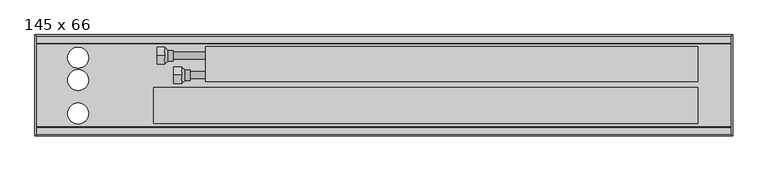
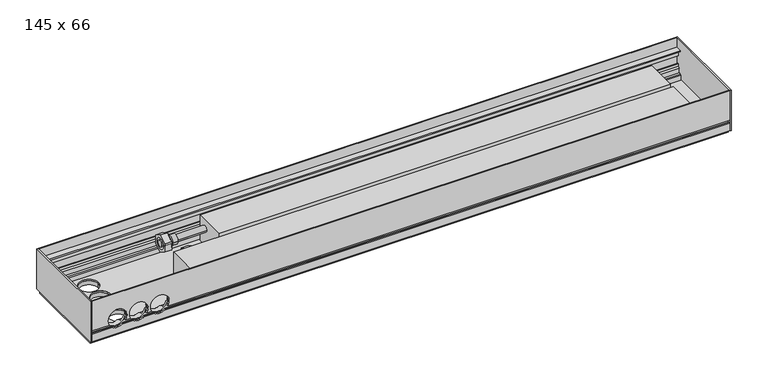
"""IFC4 building model written with IfcOpenShell, lengths in millimetres: proxy geometry, Mohlenhof_Внутрипольный конвектор_QSKM : 145 x 66."""

from ifc_helpers import new_model, si_unit, point, frame, frame_2d, origin, place, context, project, spatial, polyline, circle_curve, ellipse_curve, trimmed, segment, composite_curve, outline, extrude, source, transform, mapped, element, save
from ifc_brep_helpers import plane_surface, cylinder_surface, revolved_surface, advanced_brep


def proxy_145_x_66_d34efbbd(model_context):
    return source(origin(), model_context, "Body", "SolidModel", [
        advanced_brep(
        [(-290.0, -158.0, -47.5), (-290.0, -146.0, -47.5), (-290.0, -170.0, -47.5), (-277.5, -165.5, -47.5), (-277.5, -150.5, -47.5), (-277.5, -158.0, -47.5), (-285.0, -165.5, -47.5), (-285.0, -150.5, -47.5)],
        [
            (0, 1),
            (1, 2, circle_curve(frame((-290.0, -158.0, -47.5), z_axis=(-1.0, 0.0, 0.0), x_axis=(0.0, 1.0, 0.0)), 12.0)),
            (2, 0),
            (2, 1, circle_curve(frame((-290.0, -158.0, -47.5), z_axis=(-1.0, 0.0, 0.0), x_axis=(0.0, 1.0, 0.0)), 12.0)),
            (3, 4, circle_curve(frame((-277.5, -158.0, -47.5), z_axis=(1.0, 0.0, 0.0), x_axis=(0.0, 1.0, 0.0)), 7.5)),
            (4, 5),
            (5, 3),
            (4, 3, circle_curve(frame((-277.5, -158.0, -47.5), z_axis=(1.0, 0.0, 0.0), x_axis=(0.0, 1.0, 0.0)), 7.5)),
            (6, 7, circle_curve(frame((-285.0, -158.0, -47.5), z_axis=(1.0, 0.0, 0.0), x_axis=(0.0, 1.0, 0.0)), 7.5)),
            (7, 4),
            (3, 6),
            (7, 6, circle_curve(frame((-285.0, -158.0, -47.5), z_axis=(1.0, 0.0, 0.0), x_axis=(0.0, 1.0, 0.0)), 7.5)),
            (1, 7),
            (6, 2),
        ],
        [
            plane_surface(frame((-290.0, -158.0, -47.5), z_axis=(-1.0, 0.0, 0.0), x_axis=(0.0, 1.0, 0.0))),
            plane_surface(frame((-277.5, -158.0, -47.5), z_axis=(1.0, 0.0, 0.0), x_axis=(0.0, 1.0, 0.0))),
            cylinder_surface(frame((-290.0, -158.0, -47.5), z_axis=(-1.0, 0.0, 0.0), x_axis=(0.0, 1.0, 0.0)), 7.5),
            revolved_surface(polyline([(-285.0, -150.5, -47.5), (-290.0, -146.0, -47.5)]), (-290.0, -158.0, -47.5), (-1.0, 0.0, 0.0)),
        ],
        [
            (0, [[1, 2, 3]]),
            (0, [[-3, 4, -1]]),
            (1, [[5, 6, 7]]),
            (1, [[8, -7, -6]]),
            (2, [[9, 10, -5, 11]]),
            (2, [[12, -11, -8, -10]]),
            (3, [[-2, 13, -9, 14]]),
            (3, [[-4, -14, -12, -13]]),
        ],
    ),
        extrude(outline(polyline([(-158.0, -33.6435935), (-146.0, -40.5717968), (-146.0, -54.4282032), (-158.0, -61.3564065), (-170.0, -54.4282032), (-170.0, -40.5717968), (-158.0, -33.6435935)]), holes=[composite_curve([segment(trimmed(circle_curve(frame_2d((-158.0, -47.5)), 8.5), [point((-149.5, -47.5))], [point((-166.5, -47.5))], True, "CARTESIAN"), True, "CONTINUOUS"), segment(trimmed(circle_curve(frame_2d((-158.0, -47.5)), 8.5), [point((-166.5, -47.5))], [point((-149.5, -47.5))], True, "CARTESIAN"), True, "CONTINUOUS")], self_intersect=False)]), frame((-301.0, 0.0, 0.0), z_axis=(1.0, 0.0, 0.0), x_axis=(0.0, 1.0, 0.0)), (0.0, 0.0, 1.0), 11.0),
        advanced_brep(
        [(-314.0, -130.0, -34.5), (-314.0, -118.0, -34.5), (-314.0, -142.0, -34.5), (-301.5, -137.5, -34.5), (-301.5, -122.5, -34.5), (-301.5, -130.0, -34.5), (-309.0, -137.5, -34.5), (-309.0, -122.5, -34.5)],
        [
            (0, 1),
            (1, 2, circle_curve(frame((-314.0, -130.0, -34.5), z_axis=(-1.0, 0.0, 0.0), x_axis=(0.0, 1.0, 0.0)), 12.0)),
            (2, 0),
            (2, 1, circle_curve(frame((-314.0, -130.0, -34.5), z_axis=(-1.0, 0.0, 0.0), x_axis=(0.0, 1.0, 0.0)), 12.0)),
            (3, 4, circle_curve(frame((-301.5, -130.0, -34.5), z_axis=(1.0, 0.0, 0.0), x_axis=(0.0, 1.0, 0.0)), 7.5)),
            (4, 5),
            (5, 3),
            (4, 3, circle_curve(frame((-301.5, -130.0, -34.5), z_axis=(1.0, 0.0, 0.0), x_axis=(0.0, 1.0, 0.0)), 7.5)),
            (6, 7, circle_curve(frame((-309.0, -130.0, -34.5), z_axis=(1.0, 0.0, 0.0), x_axis=(0.0, 1.0, 0.0)), 7.5)),
            (7, 4),
            (3, 6),
            (7, 6, circle_curve(frame((-309.0, -130.0, -34.5), z_axis=(1.0, 0.0, 0.0), x_axis=(0.0, 1.0, 0.0)), 7.5)),
            (1, 7),
            (6, 2),
        ],
        [
            plane_surface(frame((-314.0, -130.0, -34.5), z_axis=(-1.0, 0.0, 0.0), x_axis=(0.0, 1.0, 0.0))),
            plane_surface(frame((-301.5, -130.0, -34.5), z_axis=(1.0, 0.0, 0.0), x_axis=(0.0, 1.0, 0.0))),
            cylinder_surface(frame((-314.0, -130.0, -34.5), z_axis=(-1.0, 0.0, 0.0), x_axis=(0.0, 1.0, 0.0)), 7.5),
            revolved_surface(polyline([(-309.0, -122.5, -34.5), (-314.0, -118.0, -34.5)]), (-314.0, -130.0, -34.5), (-1.0, 0.0, 0.0)),
        ],
        [
            (0, [[1, 2, 3]]),
            (0, [[-3, 4, -1]]),
            (1, [[5, 6, 7]]),
            (1, [[8, -7, -6]]),
            (2, [[9, 10, -5, 11]]),
            (2, [[12, -11, -8, -10]]),
            (3, [[-2, 13, -9, 14]]),
            (3, [[-4, -14, -12, -13]]),
        ],
    ),
        extrude(outline(polyline([(-130.0, -20.6435935), (-118.0, -27.5717968), (-118.0, -41.4282032), (-130.0, -48.3564065), (-142.0, -41.4282032), (-142.0, -27.5717968), (-130.0, -20.6435935)]), holes=[composite_curve([segment(trimmed(circle_curve(frame_2d((-130.0, -34.5)), 8.5), [point((-121.5, -34.5))], [point((-138.5, -34.5))], True, "CARTESIAN"), True, "CONTINUOUS"), segment(trimmed(circle_curve(frame_2d((-130.0, -34.5)), 8.5), [point((-138.5, -34.5))], [point((-121.5, -34.5))], True, "CARTESIAN"), True, "CONTINUOUS")], self_intersect=False)]), frame((-325.0, 0.0, 0.0), z_axis=(1.0, 0.0, 0.0), x_axis=(0.0, 1.0, 0.0)), (0.0, 0.0, 1.0), 11.0),
        extrude(outline(composite_curve([segment(trimmed(circle_curve(frame_2d((-475.0, -223.5)), 4.5), [point((-479.5, -223.5))], [point((-470.5, -223.5))], False, "CARTESIAN"), True, "CONTINUOUS"), segment(trimmed(circle_curve(frame_2d((-475.0, -223.5)), 4.5), [point((-470.5, -223.5))], [point((-479.5, -223.5))], False, "CARTESIAN"), True, "CONTINUOUS")], self_intersect=False)), frame((0.0, 0.0, -79.0), z_axis=(0.0, 0.0, 1.0), x_axis=(1.0, 0.0, 0.0)), (0.0, 0.0, 1.0), 7.0),
        extrude(outline(composite_curve([segment(trimmed(circle_curve(frame_2d((-475.0, -223.5)), 4.0), [point((-479.0, -223.5))], [point((-471.0, -223.5))], False, "CARTESIAN"), True, "CONTINUOUS"), segment(trimmed(circle_curve(frame_2d((-475.0, -223.5)), 4.0), [point((-471.0, -223.5))], [point((-479.0, -223.5))], False, "CARTESIAN"), True, "CONTINUOUS")], self_intersect=False)), frame((0.0, 0.0, -72.0), z_axis=(0.0, 0.0, 1.0), x_axis=(1.0, 0.0, 0.0)), (0.0, 0.0, 1.0), 1.5),
        extrude(outline(composite_curve([segment(trimmed(circle_curve(frame_2d((-475.0, -121.5)), 4.5), [point((-479.5, -121.5))], [point((-470.5, -121.5))], False, "CARTESIAN"), True, "CONTINUOUS"), segment(trimmed(circle_curve(frame_2d((-475.0, -121.5)), 4.5), [point((-470.5, -121.5))], [point((-479.5, -121.5))], False, "CARTESIAN"), True, "CONTINUOUS")], self_intersect=False)), frame((0.0, 0.0, -79.0), z_axis=(0.0, 0.0, 1.0), x_axis=(1.0, 0.0, 0.0)), (0.0, 0.0, 1.0), 7.0),
        extrude(outline(composite_curve([segment(trimmed(circle_curve(frame_2d((-475.0, -121.5)), 4.0), [point((-479.0, -121.5))], [point((-471.0, -121.5))], False, "CARTESIAN"), True, "CONTINUOUS"), segment(trimmed(circle_curve(frame_2d((-475.0, -121.5)), 4.0), [point((-471.0, -121.5))], [point((-479.0, -121.5))], False, "CARTESIAN"), True, "CONTINUOUS")], self_intersect=False)), frame((0.0, 0.0, -72.0), z_axis=(0.0, 0.0, 1.0), x_axis=(1.0, 0.0, 0.0)), (0.0, 0.0, 1.0), 1.5),
        extrude(outline(composite_curve([segment(trimmed(circle_curve(frame_2d((475.0, -223.5)), 4.5), [point((470.5, -223.5))], [point((479.5, -223.5))], False, "CARTESIAN"), True, "CONTINUOUS"), segment(trimmed(circle_curve(frame_2d((475.0, -223.5)), 4.5), [point((479.5, -223.5))], [point((470.5, -223.5))], False, "CARTESIAN"), True, "CONTINUOUS")], self_intersect=False)), frame((0.0, 0.0, -79.0), z_axis=(0.0, 0.0, 1.0), x_axis=(1.0, 0.0, 0.0)), (0.0, 0.0, 1.0), 7.0),
        extrude(outline(composite_curve([segment(trimmed(circle_curve(frame_2d((475.0, -223.5)), 4.0), [point((471.0, -223.5))], [point((479.0, -223.5))], False, "CARTESIAN"), True, "CONTINUOUS"), segment(trimmed(circle_curve(frame_2d((475.0, -223.5)), 4.0), [point((479.0, -223.5))], [point((471.0, -223.5))], False, "CARTESIAN"), True, "CONTINUOUS")], self_intersect=False)), frame((0.0, 0.0, -72.0), z_axis=(0.0, 0.0, 1.0), x_axis=(1.0, 0.0, 0.0)), (0.0, 0.0, 1.0), 1.5),
        extrude(outline(composite_curve([segment(trimmed(circle_curve(frame_2d((475.0, -121.5)), 4.5), [point((470.5, -121.5))], [point((479.5, -121.5))], False, "CARTESIAN"), True, "CONTINUOUS"), segment(trimmed(circle_curve(frame_2d((475.0, -121.5)), 4.5), [point((479.5, -121.5))], [point((470.5, -121.5))], False, "CARTESIAN"), True, "CONTINUOUS")], self_intersect=False)), frame((0.0, 0.0, -79.0), z_axis=(0.0, 0.0, 1.0), x_axis=(1.0, 0.0, 0.0)), (0.0, 0.0, 1.0), 7.0),
        extrude(outline(composite_curve([segment(trimmed(circle_curve(frame_2d((475.0, -121.5)), 4.0), [point((471.0, -121.5))], [point((479.0, -121.5))], False, "CARTESIAN"), True, "CONTINUOUS"), segment(trimmed(circle_curve(frame_2d((475.0, -121.5)), 4.0), [point((479.0, -121.5))], [point((471.0, -121.5))], False, "CARTESIAN"), True, "CONTINUOUS")], self_intersect=False)), frame((0.0, 0.0, -72.0), z_axis=(0.0, 0.0, 1.0), x_axis=(1.0, 0.0, 0.0)), (0.0, 0.0, 1.0), 1.5),
        extrude(outline(polyline([(450.0, -175.87), (450.0, -227.18), (-330.0, -227.18), (-330.0, -175.87), (450.0, -175.87)])), frame((0.0, 0.0, -62.5), z_axis=(0.0, 0.0, 1.0), x_axis=(1.0, 0.0, 0.0)), (0.0, 0.0, 1.0), 43.62),
        extrude(outline(composite_curve([segment(trimmed(circle_curve(frame_2d((-158.0, -47.5)), 5.0), [point((-163.0, -47.5))], [point((-153.0, -47.5))], False, "CARTESIAN"), True, "CONTINUOUS"), segment(trimmed(circle_curve(frame_2d((-158.0, -47.5)), 5.0), [point((-153.0, -47.5))], [point((-163.0, -47.5))], False, "CARTESIAN"), True, "CONTINUOUS")], self_intersect=False)), frame((-301.0, 0.0, 0.0), z_axis=(1.0, 0.0, 0.0), x_axis=(0.0, 1.0, 0.0)), (0.0, 0.0, 1.0), 46.0),
        extrude(outline(composite_curve([segment(trimmed(circle_curve(frame_2d((-130.0, -34.5)), 5.0), [point((-135.0, -34.5))], [point((-125.0, -34.5))], False, "CARTESIAN"), True, "CONTINUOUS"), segment(trimmed(circle_curve(frame_2d((-130.0, -34.5)), 5.0), [point((-125.0, -34.5))], [point((-135.0, -34.5))], False, "CARTESIAN"), True, "CONTINUOUS")], self_intersect=False)), frame((-325.0, 0.0, 0.0), z_axis=(1.0, 0.0, 0.0), x_axis=(0.0, 1.0, 0.0)), (0.0, 0.0, 1.0), 70.0),
        advanced_brep(
        [(498.0, -245.0, -48.5473602), (498.0, -243.5, -49.2468216), (498.0, -242.5, -49.2468216), (498.0, -242.5, -46.0008038), (498.0, -240.0, -46.0008038), (498.0, -240.0, -56.5008038), (498.0, -242.5, -56.5008038), (498.0, -242.5, -53.2468216), (498.0, -243.5, -53.2468216), (498.0, -245.0, -53.9462831), (498.0, -245.0, -66.5), (498.0, -241.0, -66.5), (498.0, -241.0, -65.2), (498.0, -243.0, -65.2), (498.0, -243.0, -62.5), (498.0, -232.0, -62.5), (498.0, -232.0, -54.9172677), (498.0, -233.4172677, -53.5), (498.0, -237.0, -53.5), (498.0, -237.0, -45.91), (498.0, -239.0, -43.91), (498.0, -239.0, -39.5), (498.0, -240.0, -39.5), (498.0, -240.0, -43.5), (498.0, -242.4956439, -43.5), (498.0, -242.4956439, -23.0), (498.0, -240.0, -23.0), (498.0, -240.0, -27.0), (498.0, -239.0, -27.0), (498.0, -239.0, -17.0), (498.0, -233.3956439, -17.0), (498.0, -233.3956439, -15.0), (498.0, -243.4, -15.0), (498.0, -243.4, 0.0), (498.0, -245.0, 0.0), (-498.0, -245.0, -48.5473602), (-498.0, -245.0, 0.0), (-498.0, -243.4, 0.0), (-498.0, -243.4, -15.0), (-498.0, -233.3956439, -15.0), (-498.0, -233.3956439, -17.0), (-498.0, -239.0, -17.0), (-498.0, -239.0, -27.0), (-498.0, -240.0, -27.0), (-498.0, -240.0, -23.0), (-498.0, -242.4956439, -23.0), (-498.0, -242.4956439, -43.5), (-498.0, -240.0, -43.5), (-498.0, -240.0, -39.5), (-498.0, -239.0, -39.5), (-498.0, -239.0, -43.91), (-498.0, -237.0, -45.91), (-498.0, -237.0, -53.5), (-498.0, -233.4172677, -53.5), (-498.0, -232.0, -54.9172677), (-498.0, -232.0, -62.5), (-498.0, -243.0, -62.5), (-498.0, -243.0, -65.2), (-498.0, -241.0, -65.2), (-498.0, -241.0, -66.5), (-498.0, -245.0, -66.5), (-498.0, -245.0, -53.9462831), (-498.0, -243.5, -53.2468216), (-498.0, -242.5, -53.2468216), (-498.0, -242.5, -56.5008038), (-498.0, -240.0, -56.5008038), (-498.0, -240.0, -46.0008038), (-498.0, -242.5, -46.0008038), (-498.0, -242.5, -49.2468216), (-498.0, -243.5, -49.2468216), (-378.7585985, -245.0, -48.5473602), (-379.155283, -243.5, -49.2468216), (-470.844717, -243.5, -49.2468216), (-471.2414015, -245.0, -48.5473602), (-438.2414015, -245.0, -48.5473602), (-444.7585985, -245.0, -48.5473602), (-445.155283, -243.5, -49.2468216), (-437.844717, -243.5, -49.2468216), (-405.2414015, -245.0, -48.5473602), (-411.7585985, -245.0, -48.5473602), (-412.155283, -243.5, -49.2468216), (-404.844717, -243.5, -49.2468216), (-379.155283, -242.5, -49.2468216), (-470.844717, -242.5, -49.2468216), (-445.155283, -242.5, -49.2468216), (-437.844717, -242.5, -49.2468216), (-412.155283, -242.5, -49.2468216), (-404.844717, -242.5, -49.2468216), (-377.6911648, -242.5, -46.0008038), (-472.3088352, -242.5, -46.0008038), (-443.6911648, -242.5, -46.0008038), (-439.3088352, -242.5, -46.0008038), (-410.6911648, -242.5, -46.0008038), (-406.3088352, -242.5, -46.0008038), (-377.6911648, -240.0, -46.0008038), (-472.3088352, -240.0, -46.0008038), (-443.6911648, -240.0, -46.0008038), (-439.3088352, -240.0, -46.0008038), (-410.6911648, -240.0, -46.0008038), (-406.3088352, -240.0, -46.0008038), (-467.328032, -242.5, -53.2468216), (-448.671968, -242.5, -53.2468216), (-434.328032, -242.5, -53.2468216), (-415.671968, -242.5, -53.2468216), (-401.328032, -242.5, -53.2468216), (-382.671968, -242.5, -53.2468216), (-382.671968, -243.5, -53.2468216), (-467.328032, -243.5, -53.2468216), (-448.671968, -243.5, -53.2468216), (-434.328032, -243.5, -53.2468216), (-415.671968, -243.5, -53.2468216), (-401.328032, -243.5, -53.2468216), (-383.6280208, -245.0, -53.9462831), (-466.3719792, -245.0, -53.9462831), (-449.6280208, -245.0, -53.9462831), (-433.3719792, -245.0, -53.9462831), (-416.6280208, -245.0, -53.9462831), (-400.3719792, -245.0, -53.9462831), (-464.7064841, -232.0, -54.9172677), (-451.2935159, -232.0, -54.9172677), (-431.7064841, -232.0, -54.9172677), (-418.2935159, -232.0, -54.9172677), (-398.7064841, -232.0, -54.9172677), (-385.2935159, -232.0, -54.9172677), (-383.0, -233.4172677, -53.5), (-467.0, -233.4172677, -53.5), (-449.0, -233.4172677, -53.5), (-434.0, -233.4172677, -53.5), (-416.0, -233.4172677, -53.5), (-401.0, -233.4172677, -53.5), (-383.0, -237.0, -53.5), (-467.0, -237.0, -53.5), (-449.0, -237.0, -53.5), (-434.0, -237.0, -53.5), (-416.0, -237.0, -53.5), (-401.0, -237.0, -53.5), (-377.6629187, -237.0, -45.91), (-472.3370813, -237.0, -45.91), (-443.6629187, -237.0, -45.91), (-439.3370813, -237.0, -45.91), (-410.6629187, -237.0, -45.91), (-406.3370813, -237.0, -45.91), (-377.1948691, -239.0, -43.91), (-472.8051309, -239.0, -43.91), (-443.1948691, -239.0, -43.91), (-439.8051309, -239.0, -43.91), (-410.1948691, -239.0, -43.91), (-406.8051309, -239.0, -43.91), (-377.0, -239.0, -41.5), (-377.1339313, -239.0, -39.5), (-472.8660687, -239.0, -39.5), (-473.0, -239.0, -41.5), (-443.0, -239.0, -41.5), (-443.1339313, -239.0, -39.5), (-439.8660687, -239.0, -39.5), (-440.0, -239.0, -41.5), (-410.0, -239.0, -41.5), (-410.1339313, -239.0, -39.5), (-406.8660687, -239.0, -39.5), (-407.0, -239.0, -41.5), (-377.1339313, -240.0, -39.5), (-472.8660687, -240.0, -39.5), (-443.1339313, -240.0, -39.5), (-439.8660687, -240.0, -39.5), (-410.1339313, -240.0, -39.5), (-406.8660687, -240.0, -39.5), (-377.0, -240.0, -41.5), (-377.1339313, -240.0, -43.5), (-472.8660687, -240.0, -43.5), (-473.0, -240.0, -41.5), (-443.0, -240.0, -41.5), (-443.1339313, -240.0, -43.5), (-439.8660687, -240.0, -43.5), (-440.0, -240.0, -41.5), (-410.0, -240.0, -41.5), (-410.1339313, -240.0, -43.5), (-406.8660687, -240.0, -43.5), (-407.0, -240.0, -41.5), (-377.1339313, -242.4956439, -43.5), (-472.8660687, -242.4956439, -43.5), (-443.1339313, -242.4956439, -43.5), (-439.8660687, -242.4956439, -43.5), (-410.1339313, -242.4956439, -43.5), (-406.8660687, -242.4956439, -43.5), (-377.0, -242.4956439, -41.5), (-407.0, -242.4956439, -41.5), (-410.0, -242.4956439, -41.5), (-440.0, -242.4956439, -41.5), (-443.0, -242.4956439, -41.5), (-473.0, -242.4956439, -41.5), (-461.8405729, -240.0, -27.0), (-454.1594271, -240.0, -27.0), (-428.8405729, -240.0, -27.0), (-421.1594271, -240.0, -27.0), (-395.8405729, -240.0, -27.0), (-388.1594271, -240.0, -27.0), (-388.1594271, -239.0, -27.0), (-461.8405729, -239.0, -27.0), (-454.1594271, -239.0, -27.0), (-428.8405729, -239.0, -27.0), (-421.1594271, -239.0, -27.0), (-395.8405729, -239.0, -27.0), (-473.0, -245.0, -41.5), (-443.0, -245.0, -41.5), (-440.0, -245.0, -41.5), (-410.0, -245.0, -41.5), (-407.0, -245.0, -41.5), (-377.0, -245.0, -41.5)],
        [
            (0, 1),
            (1, 2),
            (2, 3),
            (3, 4),
            (4, 5),
            (5, 6),
            (6, 7),
            (7, 8),
            (8, 9),
            (9, 10),
            (10, 11),
            (11, 12),
            (12, 13),
            (13, 14),
            (14, 15),
            (15, 16),
            (16, 17),
            (17, 18),
            (18, 19),
            (19, 20),
            (20, 21),
            (21, 22),
            (22, 23),
            (23, 24),
            (24, 25),
            (25, 26),
            (26, 27),
            (27, 28),
            (28, 29),
            (29, 30),
            (30, 31),
            (31, 32),
            (32, 33),
            (33, 34),
            (34, 0),
            (35, 36),
            (36, 37),
            (37, 38),
            (38, 39),
            (39, 40),
            (40, 41),
            (41, 42),
            (42, 43),
            (43, 44),
            (44, 45),
            (45, 46),
            (46, 47),
            (47, 48),
            (48, 49),
            (49, 50),
            (50, 51),
            (51, 52),
            (52, 53),
            (53, 54),
            (54, 55),
            (55, 56),
            (56, 57),
            (57, 58),
            (58, 59),
            (59, 60),
            (60, 61),
            (61, 62),
            (62, 63),
            (63, 64),
            (64, 65),
            (65, 66),
            (66, 67),
            (67, 68),
            (68, 69),
            (69, 35),
            (0, 70),
            (70, 71, ellipse_curve(frame((-392.0, -260.1131126, -41.5), z_axis=(0.0, 0.42261826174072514, 0.9063077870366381), x_axis=(0.0, -0.9063077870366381, 0.42261826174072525)), 35.4930237, 15.0)),
            (71, 1),
            (69, 72),
            (72, 73, ellipse_curve(frame((-458.0, -260.1131126, -41.5), z_axis=(0.0, 0.42261826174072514, 0.9063077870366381), x_axis=(0.0, -0.9063077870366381, 0.42261826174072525)), 35.4930237, 15.0)),
            (73, 35),
            (74, 75),
            (75, 76, ellipse_curve(frame((-458.0, -260.1131126, -41.5), z_axis=(0.0, 0.42261826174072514, 0.9063077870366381), x_axis=(0.0, -0.9063077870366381, 0.42261826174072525)), 35.4930237, 15.0)),
            (76, 77),
            (77, 74, ellipse_curve(frame((-425.0, -260.1131126, -41.5), z_axis=(0.0, 0.42261826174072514, 0.9063077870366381), x_axis=(0.0, -0.9063077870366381, 0.42261826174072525)), 35.4930237, 15.0)),
            (78, 79),
            (79, 80, ellipse_curve(frame((-425.0, -260.1131126, -41.5), z_axis=(0.0, 0.42261826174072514, 0.9063077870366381), x_axis=(0.0, -0.9063077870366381, 0.42261826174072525)), 35.4930237, 15.0)),
            (80, 81),
            (81, 78, ellipse_curve(frame((-392.0, -260.1131126, -41.5), z_axis=(0.0, 0.42261826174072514, 0.9063077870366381), x_axis=(0.0, -0.9063077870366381, 0.42261826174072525)), 35.4930237, 15.0)),
            (71, 82),
            (82, 2),
            (68, 83),
            (83, 72),
            (76, 84),
            (84, 85),
            (85, 77),
            (80, 86),
            (86, 87),
            (87, 81),
            (82, 88, circle_curve(frame((-392.0, -242.5, -41.5), z_axis=(0.0, -1.0, 0.0), x_axis=(1.0, 0.0, 0.0)), 15.0)),
            (88, 3),
            (67, 89),
            (89, 83, circle_curve(frame((-458.0, -242.5, -41.5), z_axis=(0.0, -1.0, 0.0), x_axis=(1.0, 0.0, 0.0)), 15.0)),
            (84, 90, circle_curve(frame((-458.0, -242.5, -41.5), z_axis=(0.0, -1.0, 0.0), x_axis=(1.0, 0.0, 0.0)), 15.0)),
            (90, 91),
            (91, 85, circle_curve(frame((-425.0, -242.5, -41.5), z_axis=(0.0, -1.0, 0.0), x_axis=(1.0, 0.0, 0.0)), 15.0)),
            (86, 92, circle_curve(frame((-425.0, -242.5, -41.5), z_axis=(0.0, -1.0, 0.0), x_axis=(1.0, 0.0, 0.0)), 15.0)),
            (92, 93),
            (93, 87, circle_curve(frame((-392.0, -242.5, -41.5), z_axis=(0.0, -1.0, 0.0), x_axis=(1.0, 0.0, 0.0)), 15.0)),
            (88, 94),
            (94, 4),
            (66, 95),
            (95, 89),
            (90, 96),
            (96, 97),
            (97, 91),
            (92, 98),
            (98, 99),
            (99, 93),
            (94, 99, circle_curve(frame((-392.0, -240.0, -41.5), z_axis=(0.0, 1.0, 0.0), x_axis=(1.0, 0.0, 0.0)), 15.0)),
            (98, 97, circle_curve(frame((-425.0, -240.0, -41.5), z_axis=(0.0, 1.0, 0.0), x_axis=(1.0, 0.0, 0.0)), 15.0)),
            (96, 95, circle_curve(frame((-458.0, -240.0, -41.5), z_axis=(0.0, 1.0, 0.0), x_axis=(1.0, 0.0, 0.0)), 15.0)),
            (65, 5),
            (64, 6),
            (63, 100),
            (100, 101, circle_curve(frame((-458.0, -242.5, -41.5), z_axis=(0.0, -1.0, 0.0), x_axis=(1.0, 0.0, 0.0)), 15.0)),
            (101, 102),
            (102, 103, circle_curve(frame((-425.0, -242.5, -41.5), z_axis=(0.0, -1.0, 0.0), x_axis=(1.0, 0.0, 0.0)), 15.0)),
            (103, 104),
            (104, 105, circle_curve(frame((-392.0, -242.5, -41.5), z_axis=(0.0, -1.0, 0.0), x_axis=(1.0, 0.0, 0.0)), 15.0)),
            (105, 7),
            (105, 106),
            (106, 8),
            (62, 107),
            (107, 100),
            (101, 108),
            (108, 109),
            (109, 102),
            (103, 110),
            (110, 111),
            (111, 104),
            (106, 112, ellipse_curve(frame((-392.0, -218.3088597, -41.5), z_axis=(0.0, 0.42261826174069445, -0.9063077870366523), x_axis=(0.0, -0.9063077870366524, -0.42261826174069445)), 35.4930237, 15.0)),
            (112, 9),
            (61, 113),
            (113, 107, ellipse_curve(frame((-458.0, -218.3088597, -41.5), z_axis=(0.0, 0.42261826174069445, -0.9063077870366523), x_axis=(0.0, -0.9063077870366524, -0.42261826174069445)), 35.4930237, 15.0)),
            (108, 114, ellipse_curve(frame((-458.0, -218.3088597, -41.5), z_axis=(0.0, 0.42261826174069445, -0.9063077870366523), x_axis=(0.0, -0.9063077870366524, -0.42261826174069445)), 35.4930237, 15.0)),
            (114, 115),
            (115, 109, ellipse_curve(frame((-425.0, -218.3088597, -41.5), z_axis=(0.0, 0.42261826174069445, -0.9063077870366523), x_axis=(0.0, -0.9063077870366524, -0.42261826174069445)), 35.4930237, 15.0)),
            (110, 116, ellipse_curve(frame((-425.0, -218.3088597, -41.5), z_axis=(0.0, 0.42261826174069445, -0.9063077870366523), x_axis=(0.0, -0.9063077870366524, -0.42261826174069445)), 35.4930237, 15.0)),
            (116, 117),
            (117, 111, ellipse_curve(frame((-392.0, -218.3088597, -41.5), z_axis=(0.0, 0.42261826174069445, -0.9063077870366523), x_axis=(0.0, -0.9063077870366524, -0.42261826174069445)), 35.4930237, 15.0)),
            (112, 117, circle_curve(frame((-392.0, -245.0, -41.5), z_axis=(0.0, 1.0, 0.0), x_axis=(1.0, 0.0, 0.0)), 15.0)),
            (116, 115, circle_curve(frame((-425.0, -245.0, -41.5), z_axis=(0.0, 1.0, 0.0), x_axis=(1.0, 0.0, 0.0)), 15.0)),
            (114, 113, circle_curve(frame((-458.0, -245.0, -41.5), z_axis=(0.0, 1.0, 0.0), x_axis=(1.0, 0.0, 0.0)), 15.0)),
            (60, 10),
            (59, 11),
            (58, 12),
            (57, 13),
            (56, 14),
            (55, 15),
            (54, 118),
            (118, 119, circle_curve(frame((-458.0, -232.0, -41.5), z_axis=(0.0, -1.0, 0.0), x_axis=(1.0, 0.0, 0.0)), 15.0)),
            (119, 120),
            (120, 121, circle_curve(frame((-425.0, -232.0, -41.5), z_axis=(0.0, -1.0, 0.0), x_axis=(1.0, 0.0, 0.0)), 15.0)),
            (121, 122),
            (122, 123, circle_curve(frame((-392.0, -232.0, -41.5), z_axis=(0.0, -1.0, 0.0), x_axis=(1.0, 0.0, 0.0)), 15.0)),
            (123, 16),
            (123, 124, ellipse_curve(frame((-392.0, -245.4172677, -41.5), z_axis=(0.0, -0.7071067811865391, -0.707106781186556), x_axis=(0.0, -0.7071067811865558, 0.7071067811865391)), 21.2132034, 15.0)),
            (124, 17),
            (53, 125),
            (125, 118, ellipse_curve(frame((-458.0, -245.4172677, -41.5), z_axis=(0.0, -0.7071067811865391, -0.707106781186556), x_axis=(0.0, -0.7071067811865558, 0.7071067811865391)), 21.2132034, 15.0)),
            (119, 126, ellipse_curve(frame((-458.0, -245.4172677, -41.5), z_axis=(0.0, -0.7071067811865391, -0.707106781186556), x_axis=(0.0, -0.7071067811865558, 0.7071067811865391)), 21.2132034, 15.0)),
            (126, 127),
            (127, 120, ellipse_curve(frame((-425.0, -245.4172677, -41.5), z_axis=(0.0, -0.7071067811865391, -0.707106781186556), x_axis=(0.0, -0.7071067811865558, 0.7071067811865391)), 21.2132034, 15.0)),
            (121, 128, ellipse_curve(frame((-425.0, -245.4172677, -41.5), z_axis=(0.0, -0.7071067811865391, -0.707106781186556), x_axis=(0.0, -0.7071067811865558, 0.7071067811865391)), 21.2132034, 15.0)),
            (128, 129),
            (129, 122, ellipse_curve(frame((-392.0, -245.4172677, -41.5), z_axis=(0.0, -0.7071067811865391, -0.707106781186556), x_axis=(0.0, -0.7071067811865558, 0.7071067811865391)), 21.2132034, 15.0)),
            (124, 130),
            (130, 18),
            (52, 131),
            (131, 125),
            (126, 132),
            (132, 133),
            (133, 127),
            (128, 134),
            (134, 135),
            (135, 129),
            (130, 136, circle_curve(frame((-392.0, -237.0, -41.5), z_axis=(0.0, -1.0, 0.0), x_axis=(1.0, 0.0, 0.0)), 15.0)),
            (136, 19),
            (51, 137),
            (137, 131, circle_curve(frame((-458.0, -237.0, -41.5), z_axis=(0.0, -1.0, 0.0), x_axis=(1.0, 0.0, 0.0)), 15.0)),
            (132, 138, circle_curve(frame((-458.0, -237.0, -41.5), z_axis=(0.0, -1.0, 0.0), x_axis=(1.0, 0.0, 0.0)), 15.0)),
            (138, 139),
            (139, 133, circle_curve(frame((-425.0, -237.0, -41.5), z_axis=(0.0, -1.0, 0.0), x_axis=(1.0, 0.0, 0.0)), 15.0)),
            (134, 140, circle_curve(frame((-425.0, -237.0, -41.5), z_axis=(0.0, -1.0, 0.0), x_axis=(1.0, 0.0, 0.0)), 15.0)),
            (140, 141),
            (141, 135, circle_curve(frame((-392.0, -237.0, -41.5), z_axis=(0.0, -1.0, 0.0), x_axis=(1.0, 0.0, 0.0)), 15.0)),
            (136, 142, ellipse_curve(frame((-392.0, -241.41, -41.5), z_axis=(0.0, -0.7071067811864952, -0.7071067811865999), x_axis=(0.0, -0.7071067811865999, 0.7071067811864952)), 21.2132034, 15.0)),
            (142, 20),
            (50, 143),
            (143, 137, ellipse_curve(frame((-458.0, -241.41, -41.5), z_axis=(0.0, -0.7071067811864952, -0.7071067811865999), x_axis=(0.0, -0.7071067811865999, 0.7071067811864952)), 21.2132034, 15.0)),
            (138, 144, ellipse_curve(frame((-458.0, -241.41, -41.5), z_axis=(0.0, -0.7071067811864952, -0.7071067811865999), x_axis=(0.0, -0.7071067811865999, 0.7071067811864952)), 21.2132034, 15.0)),
            (144, 145),
            (145, 139, ellipse_curve(frame((-425.0, -241.41, -41.5), z_axis=(0.0, -0.7071067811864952, -0.7071067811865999), x_axis=(0.0, -0.7071067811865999, 0.7071067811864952)), 21.2132034, 15.0)),
            (140, 146, ellipse_curve(frame((-425.0, -241.41, -41.5), z_axis=(0.0, -0.7071067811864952, -0.7071067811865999), x_axis=(0.0, -0.7071067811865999, 0.7071067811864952)), 21.2132034, 15.0)),
            (146, 147),
            (147, 141, ellipse_curve(frame((-392.0, -241.41, -41.5), z_axis=(0.0, -0.7071067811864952, -0.7071067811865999), x_axis=(0.0, -0.7071067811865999, 0.7071067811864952)), 21.2132034, 15.0)),
            (142, 148, circle_curve(frame((-392.0, -239.0, -41.5), z_axis=(0.0, -1.0, 0.0), x_axis=(1.0, 0.0, 0.0)), 15.0)),
            (148, 149, circle_curve(frame((-392.0, -239.0, -41.5), z_axis=(0.0, -1.0, 0.0), x_axis=(1.0, 0.0, 0.0)), 15.0)),
            (149, 21),
            (49, 150),
            (150, 151, circle_curve(frame((-458.0, -239.0, -41.5), z_axis=(0.0, -1.0, 0.0), x_axis=(1.0, 0.0, 0.0)), 15.0)),
            (151, 143, circle_curve(frame((-458.0, -239.0, -41.5), z_axis=(0.0, -1.0, 0.0), x_axis=(1.0, 0.0, 0.0)), 15.0)),
            (144, 152, circle_curve(frame((-458.0, -239.0, -41.5), z_axis=(0.0, -1.0, 0.0), x_axis=(1.0, 0.0, 0.0)), 15.0)),
            (152, 153, circle_curve(frame((-458.0, -239.0, -41.5), z_axis=(0.0, -1.0, 0.0), x_axis=(1.0, 0.0, 0.0)), 15.0)),
            (153, 154),
            (154, 155, circle_curve(frame((-425.0, -239.0, -41.5), z_axis=(0.0, -1.0, 0.0), x_axis=(1.0, 0.0, 0.0)), 15.0)),
            (155, 145, circle_curve(frame((-425.0, -239.0, -41.5), z_axis=(0.0, -1.0, 0.0), x_axis=(1.0, 0.0, 0.0)), 15.0)),
            (146, 156, circle_curve(frame((-425.0, -239.0, -41.5), z_axis=(0.0, -1.0, 0.0), x_axis=(1.0, 0.0, 0.0)), 15.0)),
            (156, 157, circle_curve(frame((-425.0, -239.0, -41.5), z_axis=(0.0, -1.0, 0.0), x_axis=(1.0, 0.0, 0.0)), 15.0)),
            (157, 158),
            (158, 159, circle_curve(frame((-392.0, -239.0, -41.5), z_axis=(0.0, -1.0, 0.0), x_axis=(1.0, 0.0, 0.0)), 15.0)),
            (159, 147, circle_curve(frame((-392.0, -239.0, -41.5), z_axis=(0.0, -1.0, 0.0), x_axis=(1.0, 0.0, 0.0)), 15.0)),
            (149, 160),
            (160, 22),
            (48, 161),
            (161, 150),
            (153, 162),
            (162, 163),
            (163, 154),
            (157, 164),
            (164, 165),
            (165, 158),
            (160, 166, circle_curve(frame((-392.0, -240.0, -41.5), z_axis=(0.0, 1.0, 0.0), x_axis=(1.0, 0.0, 0.0)), 15.0)),
            (166, 167, circle_curve(frame((-392.0, -240.0, -41.5), z_axis=(0.0, 1.0, 0.0), x_axis=(1.0, 0.0, 0.0)), 15.0)),
            (167, 23),
            (47, 168),
            (168, 169, circle_curve(frame((-458.0, -240.0, -41.5), z_axis=(0.0, 1.0, 0.0), x_axis=(1.0, 0.0, 0.0)), 15.0)),
            (169, 161, circle_curve(frame((-458.0, -240.0, -41.5), z_axis=(0.0, 1.0, 0.0), x_axis=(1.0, 0.0, 0.0)), 15.0)),
            (162, 170, circle_curve(frame((-458.0, -240.0, -41.5), z_axis=(0.0, 1.0, 0.0), x_axis=(1.0, 0.0, 0.0)), 15.0)),
            (170, 171, circle_curve(frame((-458.0, -240.0, -41.5), z_axis=(0.0, 1.0, 0.0), x_axis=(1.0, 0.0, 0.0)), 15.0)),
            (171, 172),
            (172, 173, circle_curve(frame((-425.0, -240.0, -41.5), z_axis=(0.0, 1.0, 0.0), x_axis=(1.0, 0.0, 0.0)), 15.0)),
            (173, 163, circle_curve(frame((-425.0, -240.0, -41.5), z_axis=(0.0, 1.0, 0.0), x_axis=(1.0, 0.0, 0.0)), 15.0)),
            (164, 174, circle_curve(frame((-425.0, -240.0, -41.5), z_axis=(0.0, 1.0, 0.0), x_axis=(1.0, 0.0, 0.0)), 15.0)),
            (174, 175, circle_curve(frame((-425.0, -240.0, -41.5), z_axis=(0.0, 1.0, 0.0), x_axis=(1.0, 0.0, 0.0)), 15.0)),
            (175, 176),
            (176, 177, circle_curve(frame((-392.0, -240.0, -41.5), z_axis=(0.0, 1.0, 0.0), x_axis=(1.0, 0.0, 0.0)), 15.0)),
            (177, 165, circle_curve(frame((-392.0, -240.0, -41.5), z_axis=(0.0, 1.0, 0.0), x_axis=(1.0, 0.0, 0.0)), 15.0)),
            (167, 178),
            (178, 24),
            (46, 179),
            (179, 168),
            (171, 180),
            (180, 181),
            (181, 172),
            (175, 182),
            (182, 183),
            (183, 176),
            (178, 184, circle_curve(frame((-392.0, -242.4956439, -41.5), z_axis=(0.0, -1.0, 0.0), x_axis=(1.0, 0.0, 0.0)), 15.0)),
            (184, 185, circle_curve(frame((-392.0, -242.4956439, -41.5), z_axis=(0.0, -1.0, 0.0), x_axis=(1.0, 0.0, 0.0)), 15.0)),
            (185, 183, circle_curve(frame((-392.0, -242.4956439, -41.5), z_axis=(0.0, -1.0, 0.0), x_axis=(1.0, 0.0, 0.0)), 15.0)),
            (182, 186, circle_curve(frame((-425.0, -242.4956439, -41.5), z_axis=(0.0, -1.0, 0.0), x_axis=(1.0, 0.0, 0.0)), 15.0)),
            (186, 187, circle_curve(frame((-425.0, -242.4956439, -41.5), z_axis=(0.0, -1.0, 0.0), x_axis=(1.0, 0.0, 0.0)), 15.0)),
            (187, 181, circle_curve(frame((-425.0, -242.4956439, -41.5), z_axis=(0.0, -1.0, 0.0), x_axis=(1.0, 0.0, 0.0)), 15.0)),
            (180, 188, circle_curve(frame((-458.0, -242.4956439, -41.5), z_axis=(0.0, -1.0, 0.0), x_axis=(1.0, 0.0, 0.0)), 15.0)),
            (188, 189, circle_curve(frame((-458.0, -242.4956439, -41.5), z_axis=(0.0, -1.0, 0.0), x_axis=(1.0, 0.0, 0.0)), 15.0)),
            (189, 179, circle_curve(frame((-458.0, -242.4956439, -41.5), z_axis=(0.0, -1.0, 0.0), x_axis=(1.0, 0.0, 0.0)), 15.0)),
            (45, 25),
            (44, 26),
            (43, 190),
            (190, 191, circle_curve(frame((-458.0, -240.0, -41.5), z_axis=(0.0, 1.0, 0.0), x_axis=(1.0, 0.0, 0.0)), 15.0)),
            (191, 192),
            (192, 193, circle_curve(frame((-425.0, -240.0, -41.5), z_axis=(0.0, 1.0, 0.0), x_axis=(1.0, 0.0, 0.0)), 15.0)),
            (193, 194),
            (194, 195, circle_curve(frame((-392.0, -240.0, -41.5), z_axis=(0.0, 1.0, 0.0), x_axis=(1.0, 0.0, 0.0)), 15.0)),
            (195, 27),
            (195, 196),
            (196, 28),
            (42, 197),
            (197, 190),
            (191, 198),
            (198, 199),
            (199, 192),
            (193, 200),
            (200, 201),
            (201, 194),
            (196, 201, circle_curve(frame((-392.0, -239.0, -41.5), z_axis=(0.0, -1.0, 0.0), x_axis=(1.0, 0.0, 0.0)), 15.0)),
            (200, 199, circle_curve(frame((-425.0, -239.0, -41.5), z_axis=(0.0, -1.0, 0.0), x_axis=(1.0, 0.0, 0.0)), 15.0)),
            (198, 197, circle_curve(frame((-458.0, -239.0, -41.5), z_axis=(0.0, -1.0, 0.0), x_axis=(1.0, 0.0, 0.0)), 15.0)),
            (41, 29),
            (40, 30),
            (39, 31),
            (38, 32),
            (37, 33),
            (36, 34),
            (73, 202, circle_curve(frame((-458.0, -245.0, -41.5), z_axis=(0.0, 1.0, 0.0), x_axis=(1.0, 0.0, 0.0)), 15.0)),
            (202, 203, circle_curve(frame((-458.0, -245.0, -41.5), z_axis=(0.0, 1.0, 0.0), x_axis=(1.0, 0.0, 0.0)), 15.0)),
            (203, 75, circle_curve(frame((-458.0, -245.0, -41.5), z_axis=(0.0, 1.0, 0.0), x_axis=(1.0, 0.0, 0.0)), 15.0)),
            (74, 204, circle_curve(frame((-425.0, -245.0, -41.5), z_axis=(0.0, 1.0, 0.0), x_axis=(1.0, 0.0, 0.0)), 15.0)),
            (204, 205, circle_curve(frame((-425.0, -245.0, -41.5), z_axis=(0.0, 1.0, 0.0), x_axis=(1.0, 0.0, 0.0)), 15.0)),
            (205, 79, circle_curve(frame((-425.0, -245.0, -41.5), z_axis=(0.0, 1.0, 0.0), x_axis=(1.0, 0.0, 0.0)), 15.0)),
            (78, 206, circle_curve(frame((-392.0, -245.0, -41.5), z_axis=(0.0, 1.0, 0.0), x_axis=(1.0, 0.0, 0.0)), 15.0)),
            (206, 207, circle_curve(frame((-392.0, -245.0, -41.5), z_axis=(0.0, 1.0, 0.0), x_axis=(1.0, 0.0, 0.0)), 15.0)),
            (207, 70, circle_curve(frame((-392.0, -245.0, -41.5), z_axis=(0.0, 1.0, 0.0), x_axis=(1.0, 0.0, 0.0)), 15.0)),
            (151, 169),
            (189, 202),
            (203, 188),
            (170, 152),
            (155, 173),
            (187, 204),
            (205, 186),
            (174, 156),
            (159, 177),
            (185, 206),
            (207, 184),
            (166, 148),
        ],
        [
            plane_surface(frame((498.0, -243.0, -62.5), z_axis=(1.0, 0.0, 0.0), x_axis=(0.0, 0.0, 1.0))),
            plane_surface(frame((-498.0, -243.0, -62.5), z_axis=(-1.0, 0.0, 0.0), x_axis=(0.0, 0.0, 1.0))),
            plane_surface(frame((498.0, -245.0, -48.5473602), z_axis=(0.0, -0.42261826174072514, -0.9063077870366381), x_axis=(-1.0, 0.0, 0.0))),
            plane_surface(frame((498.0, -243.5, -49.2468216), z_axis=(0.0, 0.0, -1.0), x_axis=(-1.0, 0.0, 0.0))),
            plane_surface(frame((498.0, -242.5, -49.2468216), z_axis=(0.0, 1.0, 0.0), x_axis=(-1.0, 0.0, 0.0))),
            plane_surface(frame((498.0, -242.5, -46.0008038), z_axis=(0.0, 0.0, -1.0), x_axis=(-1.0, 0.0, 0.0))),
            plane_surface(frame((498.0, -240.0, -46.0008038), z_axis=(0.0, -1.0, 0.0), x_axis=(-1.0, 0.0, 0.0))),
            plane_surface(frame((498.0, -240.0, -56.5008038), z_axis=(0.0, 0.0, 1.0), x_axis=(-1.0, 0.0, 0.0))),
            plane_surface(frame((498.0, -242.5, -56.5008038), z_axis=(0.0, 1.0, 0.0), x_axis=(-1.0, 0.0, 0.0))),
            plane_surface(frame((498.0, -242.5, -53.2468216), z_axis=(0.0, 0.0, 1.0), x_axis=(-1.0, 0.0, 0.0))),
            plane_surface(frame((498.0, -243.5, -53.2468216), z_axis=(0.0, -0.42261826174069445, 0.9063077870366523), x_axis=(-1.0, 0.0, 0.0))),
            plane_surface(frame((498.0, -245.0, -53.9462831), z_axis=(0.0, -1.0, 0.0), x_axis=(-1.0, 0.0, 0.0))),
            plane_surface(frame((498.0, -245.0, -66.5), z_axis=(0.0, 0.0, -1.0), x_axis=(-1.0, 0.0, 0.0))),
            plane_surface(frame((498.0, -241.0, -66.5), z_axis=(0.0, 1.0, 0.0), x_axis=(-1.0, 0.0, 0.0))),
            plane_surface(frame((498.0, -241.0, -65.2), z_axis=(0.0, 0.0, 1.0), x_axis=(-1.0, 0.0, 0.0))),
            plane_surface(frame((498.0, -243.0, -65.2), z_axis=(0.0, 1.0, 0.0), x_axis=(-1.0, 0.0, 0.0))),
            plane_surface(frame((498.0, -243.0, -62.5), z_axis=(0.0, 0.0, -1.0), x_axis=(-1.0, 0.0, 0.0))),
            plane_surface(frame((498.0, -232.0, -62.5), z_axis=(0.0, 1.0, 0.0), x_axis=(-1.0, 0.0, 0.0))),
            plane_surface(frame((498.0, -232.0, -54.9172677), z_axis=(0.0, 0.7071067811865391, 0.707106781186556), x_axis=(-1.0, 0.0, 0.0))),
            plane_surface(frame((498.0, -233.4172677, -53.5), z_axis=(0.0, 0.0, 1.0), x_axis=(-1.0, 0.0, 0.0))),
            plane_surface(frame((498.0, -237.0, -53.5), z_axis=(0.0, 1.0, 0.0), x_axis=(-1.0, 0.0, 0.0))),
            plane_surface(frame((498.0, -237.0, -45.91), z_axis=(0.0, 0.7071067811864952, 0.7071067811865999), x_axis=(-1.0, 0.0, 0.0))),
            plane_surface(frame((498.0, -239.0, -43.91), z_axis=(0.0, 1.0, 0.0), x_axis=(-1.0, 0.0, 0.0))),
            plane_surface(frame((498.0, -239.0, -39.5), z_axis=(0.0, 0.0, 1.0), x_axis=(-1.0, 0.0, 0.0))),
            plane_surface(frame((498.0, -240.0, -39.5), z_axis=(0.0, -1.0, 0.0), x_axis=(-1.0, 0.0, 0.0))),
            plane_surface(frame((498.0, -240.0, -43.5), z_axis=(0.0, 0.0, 1.0), x_axis=(-1.0, 0.0, 0.0))),
            plane_surface(frame((498.0, -242.4956439, -43.5), z_axis=(0.0, 1.0, 0.0), x_axis=(-1.0, 0.0, 0.0))),
            plane_surface(frame((498.0, -242.4956439, -23.0), z_axis=(0.0, 0.0, -1.0), x_axis=(-1.0, 0.0, 0.0))),
            plane_surface(frame((498.0, -240.0, -23.0), z_axis=(0.0, -1.0, 0.0), x_axis=(-1.0, 0.0, 0.0))),
            plane_surface(frame((498.0, -240.0, -27.0), z_axis=(0.0, 0.0, -1.0), x_axis=(-1.0, 0.0, 0.0))),
            plane_surface(frame((498.0, -239.0, -27.0), z_axis=(0.0, 1.0, 0.0), x_axis=(-1.0, 0.0, 0.0))),
            plane_surface(frame((498.0, -239.0, -17.0), z_axis=(0.0, 0.0, -1.0), x_axis=(-1.0, 0.0, 0.0))),
            plane_surface(frame((498.0, -233.3956439, -17.0), z_axis=(0.0, 1.0, 0.0), x_axis=(-1.0, 0.0, 0.0))),
            plane_surface(frame((498.0, -233.3956439, -15.0), z_axis=(0.0, 0.0, 1.0), x_axis=(-1.0, 0.0, 0.0))),
            plane_surface(frame((498.0, -243.4, -15.0), z_axis=(0.0, 1.0, 0.0), x_axis=(-1.0, 0.0, 0.0))),
            plane_surface(frame((498.0, -243.4, 0.0), z_axis=(0.0, 0.0, 1.0), x_axis=(-1.0, 0.0, 0.0))),
            plane_surface(frame((498.0, -245.0, 0.0), z_axis=(0.0, -1.0, 0.0), x_axis=(-1.0, 0.0, 0.0))),
            revolved_surface(polyline([(-443.0, -250.47646346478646, -41.5), (-443.0, -186.14125593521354, -41.5)]), (-458.0, -213.0, -41.5), (0.0, -1.0, 0.0)),
            revolved_surface(polyline([(-443.0, -292.280716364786, -41.5), (-443.0, -226.41000002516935, -41.5)]), (-458.0, -213.0, -41.5), (0.0, -1.0, 0.0)),
            revolved_surface(polyline([(-443.0, -240.0, -41.5), (-443.0, -239.0, -41.5)]), (-458.0, -213.0, -41.5), (0.0, -1.0, 0.0)),
            revolved_surface(polyline([(-443.0, -245.0, -41.5), (-443.0, -242.4956439, -41.5)]), (-458.0, -213.0, -41.5), (0.0, -1.0, 0.0)),
            revolved_surface(polyline([(-410.0, -250.47646346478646, -41.5), (-410.0, -186.14125593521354, -41.5)]), (-425.0, 0.0, -41.5), (0.0, -1.0, 0.0)),
            revolved_surface(polyline([(-410.0, -292.280716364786, -41.5), (-410.0, -226.41000002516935, -41.5)]), (-425.0, 0.0, -41.5), (0.0, -1.0, 0.0)),
            revolved_surface(polyline([(-410.0, -240.0, -41.5), (-410.0, -239.0, -41.5)]), (-425.0, 0.0, -41.5), (0.0, -1.0, 0.0)),
            revolved_surface(polyline([(-410.0, -245.0, -41.5), (-410.0, -242.4956439, -41.5)]), (-425.0, 0.0, -41.5), (0.0, -1.0, 0.0)),
            revolved_surface(polyline([(-377.0, -250.47646346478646, -41.5), (-377.0, -186.14125593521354, -41.5)]), (-392.0, 0.0, -41.5), (0.0, -1.0, 0.0)),
            revolved_surface(polyline([(-377.0, -292.280716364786, -41.5), (-377.0, -226.41000002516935, -41.5)]), (-392.0, 0.0, -41.5), (0.0, -1.0, 0.0)),
            revolved_surface(polyline([(-377.0, -240.0, -41.5), (-377.0, -239.0, -41.5)]), (-392.0, 0.0, -41.5), (0.0, -1.0, 0.0)),
            revolved_surface(polyline([(-377.0, -245.0, -41.5), (-377.0, -242.4956439, -41.5)]), (-392.0, 0.0, -41.5), (0.0, -1.0, 0.0)),
        ],
        [
            (0, [[1, 2, 3, 4, 5, 6, 7, 8, 9, 10, 11, 12, 13, 14, 15, 16, 17, 18, 19, 20, 21, 22, 23, 24, 25, 26, 27, 28, 29, 30, 31, 32, 33, 34, 35]]),
            (1, [[36, 37, 38, 39, 40, 41, 42, 43, 44, 45, 46, 47, 48, 49, 50, 51, 52, 53, 54, 55, 56, 57, 58, 59, 60, 61, 62, 63, 64, 65, 66, 67, 68, 69, 70]]),
            (2, [[-1, 71, 72, 73]]),
            (2, [[-70, 74, 75, 76]]),
            (2, [[77, 78, 79, 80]]),
            (2, [[81, 82, 83, 84]]),
            (3, [[-2, -73, 85, 86]]),
            (3, [[-69, 87, 88, -74]]),
            (3, [[-79, 89, 90, 91]]),
            (3, [[-83, 92, 93, 94]]),
            (4, [[-3, -86, 95, 96]]),
            (4, [[-68, 97, 98, -87]]),
            (4, [[-90, 99, 100, 101]]),
            (4, [[-93, 102, 103, 104]]),
            (5, [[-4, -96, 105, 106]]),
            (5, [[-67, 107, 108, -97]]),
            (5, [[-100, 109, 110, 111]]),
            (5, [[-103, 112, 113, 114]]),
            (6, [[-5, -106, 115, -113, 116, -110, 117, -107, -66, 118]]),
            (7, [[-6, -118, -65, 119]]),
            (8, [[-7, -119, -64, 120, 121, 122, 123, 124, 125, 126]]),
            (9, [[-8, -126, 127, 128]]),
            (9, [[-63, 129, 130, -120]]),
            (9, [[-122, 131, 132, 133]]),
            (9, [[-124, 134, 135, 136]]),
            (10, [[-9, -128, 137, 138]]),
            (10, [[-62, 139, 140, -129]]),
            (10, [[-132, 141, 142, 143]]),
            (10, [[-135, 144, 145, 146]]),
            (11, [[-10, -138, 147, -145, 148, -142, 149, -139, -61, 150]]),
            (12, [[-11, -150, -60, 151]]),
            (13, [[-12, -151, -59, 152]]),
            (14, [[-13, -152, -58, 153]]),
            (15, [[-14, -153, -57, 154]]),
            (16, [[-15, -154, -56, 155]]),
            (17, [[-16, -155, -55, 156, 157, 158, 159, 160, 161, 162]]),
            (18, [[-17, -162, 163, 164]]),
            (18, [[-54, 165, 166, -156]]),
            (18, [[-158, 167, 168, 169]]),
            (18, [[-160, 170, 171, 172]]),
            (19, [[-18, -164, 173, 174]]),
            (19, [[-53, 175, 176, -165]]),
            (19, [[-168, 177, 178, 179]]),
            (19, [[-171, 180, 181, 182]]),
            (20, [[-19, -174, 183, 184]]),
            (20, [[-52, 185, 186, -175]]),
            (20, [[-178, 187, 188, 189]]),
            (20, [[-181, 190, 191, 192]]),
            (21, [[-20, -184, 193, 194]]),
            (21, [[-51, 195, 196, -185]]),
            (21, [[-188, 197, 198, 199]]),
            (21, [[-191, 200, 201, 202]]),
            (22, [[-21, -194, 203, 204, 205]]),
            (22, [[-50, 206, 207, 208, -195]]),
            (22, [[-198, 209, 210, 211, 212, 213]]),
            (22, [[-201, 214, 215, 216, 217, 218]]),
            (23, [[-22, -205, 219, 220]]),
            (23, [[-49, 221, 222, -206]]),
            (23, [[-211, 223, 224, 225]]),
            (23, [[-216, 226, 227, 228]]),
            (24, [[-23, -220, 229, 230, 231]]),
            (24, [[-48, 232, 233, 234, -221]]),
            (24, [[-224, 235, 236, 237, 238, 239]]),
            (24, [[-227, 240, 241, 242, 243, 244]]),
            (25, [[-24, -231, 245, 246]]),
            (25, [[-47, 247, 248, -232]]),
            (25, [[-237, 249, 250, 251]]),
            (25, [[-242, 252, 253, 254]]),
            (26, [[-25, -246, 255, 256, 257, -253, 258, 259, 260, -250, 261, 262, 263, -247, -46, 264]]),
            (27, [[-26, -264, -45, 265]]),
            (28, [[-27, -265, -44, 266, 267, 268, 269, 270, 271, 272]]),
            (29, [[-28, -272, 273, 274]]),
            (29, [[-43, 275, 276, -266]]),
            (29, [[-268, 277, 278, 279]]),
            (29, [[-270, 280, 281, 282]]),
            (30, [[-29, -274, 283, -281, 284, -278, 285, -275, -42, 286]]),
            (31, [[-30, -286, -41, 287]]),
            (32, [[-31, -287, -40, 288]]),
            (33, [[-32, -288, -39, 289]]),
            (34, [[-33, -289, -38, 290]]),
            (35, [[-34, -290, -37, 291]]),
            (36, [[-35, -291, -36, -76, 292, 293, 294, -77, 295, 296, 297, -81, 298, 299, 300, -71]]),
            (37, [[-121, -130, -140, -149, -141, -131]]),
            (38, [[301, -233, -248, -263, 302, -292, -75, -88, -98, -108, -117, -109, -99, -89, -78, -294, 303, -261, -249, -236, 304, -209, -197, -187, -177, -167, -157, -166, -176, -186, -196, -208]]),
            (39, [[-267, -276, -285, -277]]),
            (39, [[-301, -207, -222, -234]]),
            (40, [[-302, -262, -303, -293]]),
            (39, [[-304, -235, -223, -210]]),
            (41, [[-123, -133, -143, -148, -144, -134]]),
            (42, [[305, -238, -251, -260, 306, -295, -80, -91, -101, -111, -116, -112, -102, -92, -82, -297, 307, -258, -252, -241, 308, -214, -200, -190, -180, -170, -159, -169, -179, -189, -199, -213]]),
            (43, [[-269, -279, -284, -280]]),
            (43, [[-305, -212, -225, -239]]),
            (44, [[-306, -259, -307, -296]]),
            (43, [[-308, -240, -226, -215]]),
            (45, [[-125, -136, -146, -147, -137, -127]]),
            (46, [[309, -243, -254, -257, 310, -298, -84, -94, -104, -114, -115, -105, -95, -85, -72, -300, 311, -255, -245, -230, 312, -203, -193, -183, -173, -163, -161, -172, -182, -192, -202, -218]]),
            (47, [[-271, -282, -283, -273]]),
            (47, [[-309, -217, -228, -244]]),
            (48, [[-310, -256, -311, -299]]),
            (47, [[-312, -229, -219, -204]]),
        ],
    ),
        extrude(outline(polyline([(-100.0, -48.5473602), (-101.5, -49.2468216), (-102.5, -49.2468216), (-102.5, -46.0008038), (-105.0, -46.0008038), (-105.0, -56.5008038), (-102.5, -56.5008038), (-102.5, -53.2468216), (-101.5, -53.2468216), (-100.0, -53.9462831), (-100.0, -66.5), (-104.0, -66.5), (-104.0, -65.2), (-102.0, -65.2), (-102.0, -62.5), (-113.0, -62.5), (-113.0, -54.9172677), (-111.5827323, -53.5), (-108.0, -53.5), (-108.0, -45.91), (-106.0, -43.91), (-106.0, -39.5), (-105.0, -39.5), (-105.0, -43.5), (-102.5043561, -43.5), (-102.5043561, -23.0), (-105.0, -23.0), (-105.0, -27.0), (-106.0, -27.0), (-106.0, -17.0), (-111.6043561, -17.0), (-111.6043561, -15.0), (-101.6, -15.0), (-101.6, 0.0), (-100.0, 0.0), (-100.0, -48.5473602)])), frame((-498.0, 0.0, 0.0), z_axis=(1.0, 0.0, 0.0), x_axis=(0.0, 1.0, 0.0)), (0.0, 0.0, 1.0), 996.0),
        extrude(outline(polyline([(498.0, -104.499991), (498.0, -240.5), (-498.0, -240.5), (-498.0, -104.499991), (498.0, -104.499991)]), holes=[composite_curve([segment(trimmed(circle_curve(frame_2d((-438.0, -133.0)), 15.0), [point((-453.0, -133.0))], [point((-423.0, -133.0))], True, "CARTESIAN"), True, "CONTINUOUS"), segment(trimmed(circle_curve(frame_2d((-438.0, -133.0)), 15.0), [point((-423.0, -133.0))], [point((-453.0, -133.0))], True, "CARTESIAN"), True, "CONTINUOUS")], self_intersect=False), composite_curve([segment(trimmed(circle_curve(frame_2d((-438.0, -165.0)), 15.0), [point((-453.0, -165.0))], [point((-423.0, -165.0))], True, "CARTESIAN"), True, "CONTINUOUS"), segment(trimmed(circle_curve(frame_2d((-438.0, -165.0)), 15.0), [point((-423.0, -165.0))], [point((-453.0, -165.0))], True, "CARTESIAN"), True, "CONTINUOUS")], self_intersect=False), composite_curve([segment(trimmed(circle_curve(frame_2d((-438.0, -213.0)), 15.0), [point((-453.0, -213.0))], [point((-423.0, -213.0))], True, "CARTESIAN"), True, "CONTINUOUS"), segment(trimmed(circle_curve(frame_2d((-438.0, -213.0)), 15.0), [point((-423.0, -213.0))], [point((-453.0, -213.0))], True, "CARTESIAN"), True, "CONTINUOUS")], self_intersect=False)]), frame((0.0, 0.0, -71.5), z_axis=(0.0, 0.0, 1.0), x_axis=(1.0, 0.0, 0.0)), (0.0, 0.0, 1.0), 6.3),
        extrude(outline(polyline([(498.0, -102.0), (498.0, -243.0), (-498.0, -243.0), (-498.0, -102.0), (498.0, -102.0)]), holes=[composite_curve([segment(trimmed(circle_curve(frame_2d((-438.0, -133.0)), 15.0), [point((-453.0, -133.0))], [point((-423.0, -133.0))], True, "CARTESIAN"), True, "CONTINUOUS"), segment(trimmed(circle_curve(frame_2d((-438.0, -133.0)), 15.0), [point((-423.0, -133.0))], [point((-453.0, -133.0))], True, "CARTESIAN"), True, "CONTINUOUS")], self_intersect=False), composite_curve([segment(trimmed(circle_curve(frame_2d((-438.0, -165.0)), 15.0), [point((-453.0, -165.0))], [point((-423.0, -165.0))], True, "CARTESIAN"), True, "CONTINUOUS"), segment(trimmed(circle_curve(frame_2d((-438.0, -165.0)), 15.0), [point((-423.0, -165.0))], [point((-453.0, -165.0))], True, "CARTESIAN"), True, "CONTINUOUS")], self_intersect=False), composite_curve([segment(trimmed(circle_curve(frame_2d((-438.0, -213.0)), 15.0), [point((-453.0, -213.0))], [point((-423.0, -213.0))], True, "CARTESIAN"), True, "CONTINUOUS"), segment(trimmed(circle_curve(frame_2d((-438.0, -213.0)), 15.0), [point((-423.0, -213.0))], [point((-453.0, -213.0))], True, "CARTESIAN"), True, "CONTINUOUS")], self_intersect=False)]), frame((0.0, 0.0, -65.2), z_axis=(0.0, 0.0, 1.0), x_axis=(1.0, 0.0, 0.0)), (0.0, 0.0, 1.0), 2.7),
        extrude(outline(polyline([(450.0, -117.0), (450.0, -167.0), (-255.0, -167.0), (-255.0, -117.0), (450.0, -117.0)])), frame((0.0, 0.0, -62.5), z_axis=(0.0, 0.0, 1.0), x_axis=(1.0, 0.0, 0.0)), (0.0, 0.0, 1.0), 43.0),
        extrude(outline(polyline([(500.0, -245.0), (498.0, -245.0), (498.0, -100.0), (500.0, -100.0), (500.0, -245.0)])), frame((0.0, 0.0, -66.5), z_axis=(0.0, 0.0, 1.0), x_axis=(1.0, 0.0, 0.0)), (0.0, 0.0, 1.0), 66.5),
        extrude(outline(polyline([(-498.0, -100.0), (-498.0, -245.0), (-500.0, -245.0), (-500.0, -100.0), (-498.0, -100.0)])), frame((0.0, 0.0, -66.5), z_axis=(0.0, 0.0, 1.0), x_axis=(1.0, 0.0, 0.0)), (0.0, 0.0, 1.0), 66.5),
    ])


if __name__ == "__main__":
    model = new_model("IFC4")
    model_context = context("Model", 3, world=origin())
    ifc_project = project(units=[si_unit("LENGTHUNIT", "METRE", prefix="MILLI")], contexts=[model_context])
    site = spatial("IfcSite", under=ifc_project)
    building = spatial("IfcBuilding", under=site)
    placement = place(None, origin())
    proxy_145_x_66_shape = proxy_145_x_66_d34efbbd(model_context)
    element("IfcBuildingElementProxy", 1, Name="Mohlenhof_Внутрипольный конвектор_QSKM : 145 x 66", ObjectType="Mohlenhof_Внутрипольный конвектор_QSKM : 145 x 66", at=placement, inside=building, context=model_context, shape_type="MappedRepresentation", body=[
        mapped(proxy_145_x_66_shape, transform((0.0, 0.0, 0.0), x_axis=(1.0, 0.0, 0.0), y_axis=(0.0, 1.0, 0.0), z_axis=(0.0, 0.0, 1.0))),
    ])
    save(model, "model.ifc")
